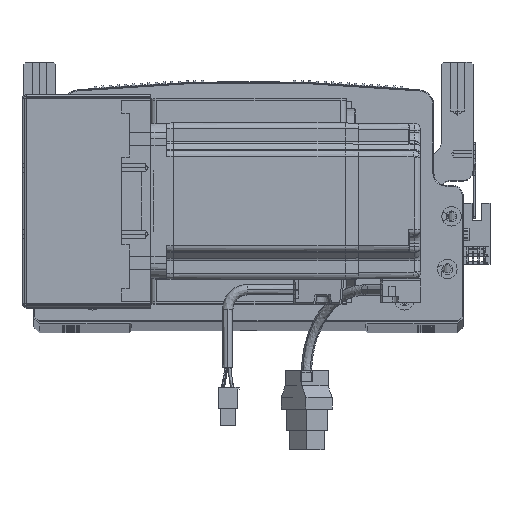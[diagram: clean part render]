
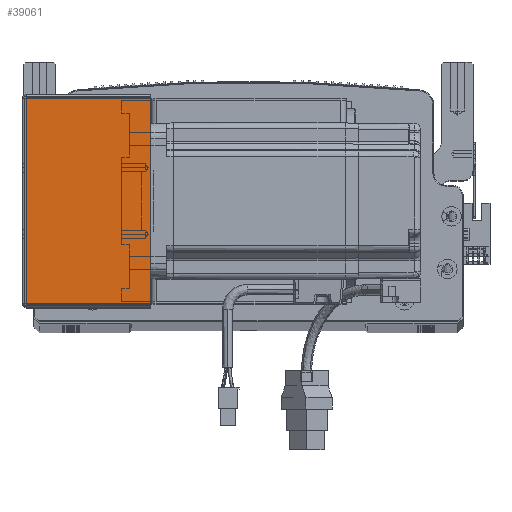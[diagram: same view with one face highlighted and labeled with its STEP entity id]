
A CAD part, top view. The second image highlights one B-rep face of the part: STEP entity #39061.
In plain terms, the highlighted planar face has unit normal (0, 0, 1) as drawn and (0, 0, -1) by its records, which use the part's own axes.
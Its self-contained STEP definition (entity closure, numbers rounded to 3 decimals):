
#532 = FACE_OUTER_BOUND ( 'NONE', #32525, .T. ) ;
#984 = DIRECTION ( 'NONE',  ( 1., 0., 0. ) ) ;
#1264 = LINE ( 'NONE', #46207, #37305 ) ;
#3077 = CARTESIAN_POINT ( 'NONE',  ( 0.737, 105.293, -205.5 ) ) ;
#3975 = LINE ( 'NONE', #78480, #10950 ) ;
#4581 = EDGE_CURVE ( 'NONE', #66351, #46985, #44909, .T. ) ;
#10664 = CARTESIAN_POINT ( 'NONE',  ( 0., 0., -205.5 ) ) ;
#10950 = VECTOR ( 'NONE', #27404, 1000. ) ;
#11650 = PLANE ( 'NONE',  #13681 ) ;
#13681 = AXIS2_PLACEMENT_3D ( 'NONE', #10664, #71158, #85849 ) ;
#14822 = EDGE_CURVE ( 'NONE', #54208, #46985, #1264, .T. ) ;
#17370 = CARTESIAN_POINT ( 'NONE',  ( 64.5, 105.293, -205.5 ) ) ;
#20971 = VERTEX_POINT ( 'NONE', #3077 ) ;
#23726 = DIRECTION ( 'NONE',  ( 0., -1., 0. ) ) ;
#23765 = CARTESIAN_POINT ( 'NONE',  ( 0., 0.707, -205.5 ) ) ;
#27404 = DIRECTION ( 'NONE',  ( 1., 0., 0. ) ) ;
#32525 = EDGE_LOOP ( 'NONE', ( #76765, #56928, #88458, #55107 ) ) ;
#37305 = VECTOR ( 'NONE', #77110, 1000. ) ;
#39061 = ADVANCED_FACE ( 'NONE', ( #532 ), #11650, .F. ) ;
#44909 = LINE ( 'NONE', #23765, #57629 ) ;
#46207 = CARTESIAN_POINT ( 'NONE',  ( 64.5, 0., -205.5 ) ) ;
#46714 = LINE ( 'NONE', #68587, #84013 ) ;
#46985 = VERTEX_POINT ( 'NONE', #59588 ) ;
#54208 = VERTEX_POINT ( 'NONE', #17370 ) ;
#55107 = ORIENTED_EDGE ( 'NONE', *, *, #4581, .F. ) ;
#56928 = ORIENTED_EDGE ( 'NONE', *, *, #64516, .T. ) ;
#57629 = VECTOR ( 'NONE', #984, 1000. ) ;
#59035 = CARTESIAN_POINT ( 'NONE',  ( 0.737, 0.707, -205.5 ) ) ;
#59588 = CARTESIAN_POINT ( 'NONE',  ( 64.5, 0.707, -205.5 ) ) ;
#64516 = EDGE_CURVE ( 'NONE', #20971, #54208, #3975, .T. ) ;
#66351 = VERTEX_POINT ( 'NONE', #59035 ) ;
#68587 = CARTESIAN_POINT ( 'NONE',  ( 0.737, 0., -205.5 ) ) ;
#71158 = DIRECTION ( 'NONE',  ( 0., 0., 1. ) ) ;
#76765 = ORIENTED_EDGE ( 'NONE', *, *, #95593, .F. ) ;
#77110 = DIRECTION ( 'NONE',  ( 0., -1., 0. ) ) ;
#78480 = CARTESIAN_POINT ( 'NONE',  ( 0., 105.293, -205.5 ) ) ;
#84013 = VECTOR ( 'NONE', #23726, 1000. ) ;
#85849 = DIRECTION ( 'NONE',  ( 1., 0., 0. ) ) ;
#88458 = ORIENTED_EDGE ( 'NONE', *, *, #14822, .T. ) ;
#95593 = EDGE_CURVE ( 'NONE', #20971, #66351, #46714, .T. ) ;
